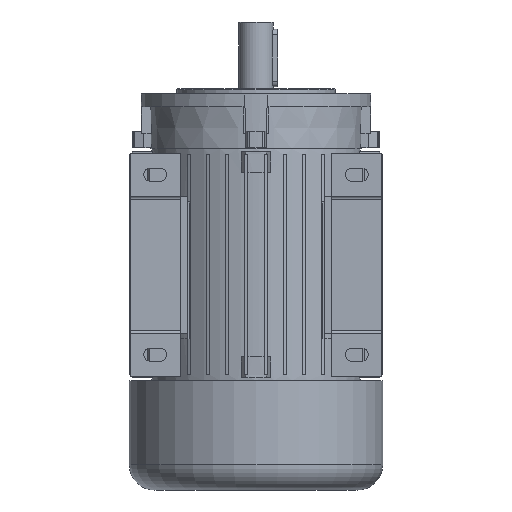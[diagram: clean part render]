
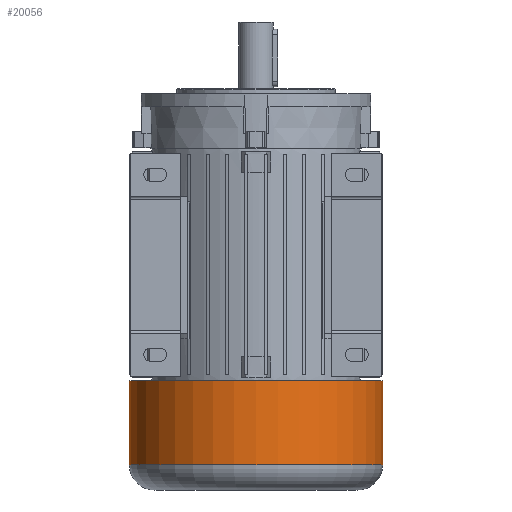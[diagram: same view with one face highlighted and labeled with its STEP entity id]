
A CAD part, front view. The second image highlights one B-rep face of the part: STEP entity #20056.
In plain terms, the highlighted cylindrical face has radius 88 mm (diameter 176 mm), a partial arc.
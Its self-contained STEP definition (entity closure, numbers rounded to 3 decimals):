
#479 = LINE ( 'NONE', #10706, #1795 ) ;
#542 = CARTESIAN_POINT ( 'NONE',  ( 88., 0., -138.9 ) ) ;
#1795 = VECTOR ( 'NONE', #8784, 1000. ) ;
#1901 = CARTESIAN_POINT ( 'NONE',  ( 0., 0., -80.5 ) ) ;
#1939 = DIRECTION ( 'NONE',  ( 1., 0., 0. ) ) ;
#2098 = DIRECTION ( 'NONE',  ( 1., 0., 0. ) ) ;
#2339 = CARTESIAN_POINT ( 'NONE',  ( 88., 0., -189.368 ) ) ;
#2511 = AXIS2_PLACEMENT_3D ( 'NONE', #6079, #3876, #1939 ) ;
#3727 = VERTEX_POINT ( 'NONE', #21760 ) ;
#3876 = DIRECTION ( 'NONE',  ( 0., 0., 1. ) ) ;
#3966 = VECTOR ( 'NONE', #6847, 1000. ) ;
#5178 = AXIS2_PLACEMENT_3D ( 'NONE', #1901, #19035, #2098 ) ;
#5937 = EDGE_CURVE ( 'NONE', #24657, #7493, #19610, .T. ) ;
#6079 = CARTESIAN_POINT ( 'NONE',  ( 0., 0., -189.368 ) ) ;
#6643 = FACE_OUTER_BOUND ( 'NONE', #13250, .T. ) ;
#6847 = DIRECTION ( 'NONE',  ( 0., 0., 1. ) ) ;
#7493 = VERTEX_POINT ( 'NONE', #542 ) ;
#8216 = DIRECTION ( 'NONE',  ( 1., 0., 0. ) ) ;
#8784 = DIRECTION ( 'NONE',  ( 0., 0., 1. ) ) ;
#9243 = EDGE_CURVE ( 'NONE', #7493, #14629, #20115, .T. ) ;
#9580 = CIRCLE ( 'NONE', #5178, 88. ) ;
#10706 = CARTESIAN_POINT ( 'NONE',  ( -88., 0., -189.368 ) ) ;
#12160 = CARTESIAN_POINT ( 'NONE',  ( 88., 0., -80.5 ) ) ;
#13250 = EDGE_LOOP ( 'NONE', ( #26658, #14580, #14805, #19257 ) ) ;
#14580 = ORIENTED_EDGE ( 'NONE', *, *, #5937, .T. ) ;
#14629 = VERTEX_POINT ( 'NONE', #12160 ) ;
#14805 = ORIENTED_EDGE ( 'NONE', *, *, #9243, .T. ) ;
#16685 = DIRECTION ( 'NONE',  ( 0., 0., 1. ) ) ;
#19035 = DIRECTION ( 'NONE',  ( 0., 0., 1. ) ) ;
#19257 = ORIENTED_EDGE ( 'NONE', *, *, #20625, .F. ) ;
#19610 = CIRCLE ( 'NONE', #22225, 88. ) ;
#20056 = ADVANCED_FACE ( 'NONE', ( #6643 ), #22791, .T. ) ;
#20115 = LINE ( 'NONE', #2339, #3966 ) ;
#20625 = EDGE_CURVE ( 'NONE', #3727, #14629, #9580, .T. ) ;
#21216 = CARTESIAN_POINT ( 'NONE',  ( -88., 0., -138.9 ) ) ;
#21760 = CARTESIAN_POINT ( 'NONE',  ( -88., 0., -80.5 ) ) ;
#22225 = AXIS2_PLACEMENT_3D ( 'NONE', #22958, #16685, #8216 ) ;
#22791 = CYLINDRICAL_SURFACE ( 'NONE', #2511, 88. ) ;
#22958 = CARTESIAN_POINT ( 'NONE',  ( 0., 0., -138.9 ) ) ;
#24657 = VERTEX_POINT ( 'NONE', #21216 ) ;
#24662 = EDGE_CURVE ( 'NONE', #24657, #3727, #479, .T. ) ;
#26658 = ORIENTED_EDGE ( 'NONE', *, *, #24662, .F. ) ;
